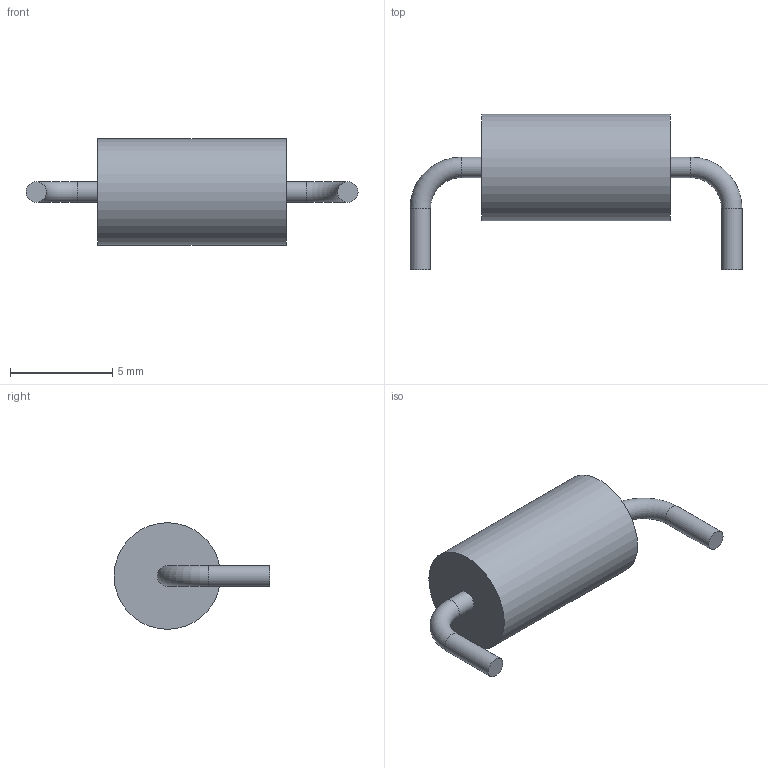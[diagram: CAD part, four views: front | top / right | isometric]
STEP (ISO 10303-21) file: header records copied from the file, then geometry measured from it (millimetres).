
FILE_DESCRIPTION(('FreeCAD Model'),'2;1');
FILE_NAME('Open CASCADE Shape Model','2023-12-07T04:14:58',('Author'),( ''),'Open CASCADE STEP processor 7.6','FreeCAD','Unknown');
FILE_SCHEMA(('AUTOMOTIVE_DESIGN { 1 0 10303 214 1 1 1 1 }'));
Length unit declared in the file: millimetre
Products named in the file (1): Group
Bounding box: 16.2 x 7.6 x 5.2 mm (x, y, z)
Volume: 206.6 mm3; surface area: 237.6 mm2
Topology: 1 solids, 1 shells, 11 faces, 20 edges, 13 vertices
Faces by surface type: cylinder 5, plane 4, torus 2
Full cylindrical faces by diameter (mm): 1 x4, 5.2 x1
Entity records: 635 total; most frequent: CARTESIAN_POINT 92, DIRECTION 92, ORIENTED_EDGE 40, PCURVE 40, DEFINITIONAL_REPRESENTATION 40, LINE 32, VECTOR 32, AXIS2_PLACEMENT_3D 27
